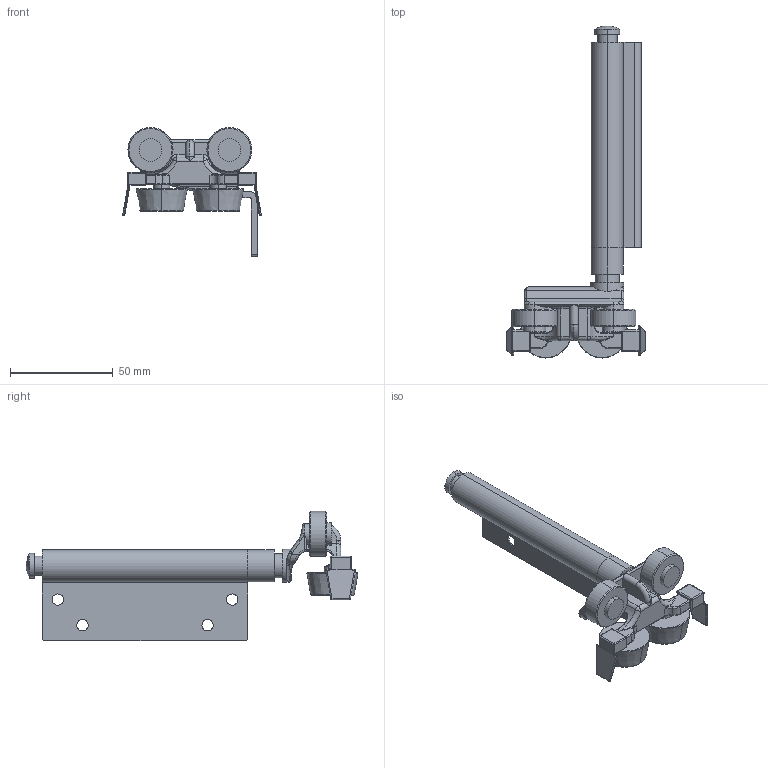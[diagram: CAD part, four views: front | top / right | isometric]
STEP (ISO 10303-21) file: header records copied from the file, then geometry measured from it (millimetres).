
FILE_DESCRIPTION (( 'STEP AP214' ), '1' );
FILE_NAME ('F3 End Carrier Right - Closed 05Jun2024.STEP', '2024-07-05T04:10:29', ( '' ), ( '' ), 'SwSTEP 2.0', 'SolidWorks 2023', '' );
FILE_SCHEMA (( 'AUTOMOTIVE_DESIGN' ));
Length unit declared in the file: millimetre
Products named in the file (3): Right carrier; Offset Flap; F3 End Carrier Right - Closed 05Jun2024
Assembly tree (2 placements, depth 2):
  F3 End Carrier Right - Closed 05Jun2024
    Right carrier
    Offset Flap
Bounding box: 67.6 x 161.88 x 63 mm (x, y, z)
Volume: 61142.8 mm3; surface area: 32811 mm2
Topology: 2 solids, 2 shells, 325 faces, 787 edges, 447 vertices
Faces by surface type: cylinder 133, plane 61, bspline 36, torus 35, sphere 32, cone 28
Entity records: 10215 total; most frequent: CARTESIAN_POINT 2879, DIRECTION 1609, ORIENTED_EDGE 1500, EDGE_CURVE 750, AXIS2_PLACEMENT_3D 667, VERTEX_POINT 439, CIRCLE 373, EDGE_LOOP 345
